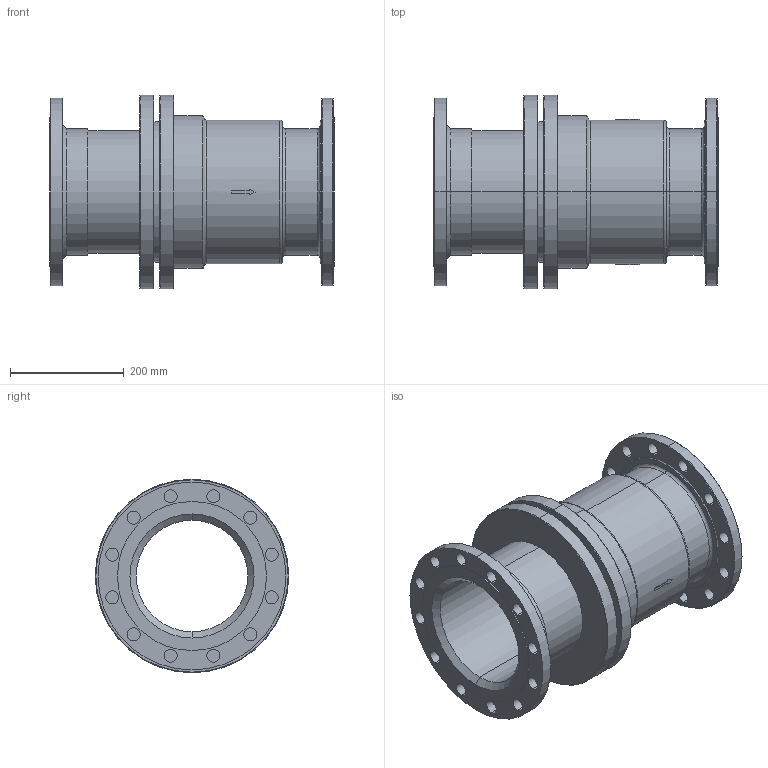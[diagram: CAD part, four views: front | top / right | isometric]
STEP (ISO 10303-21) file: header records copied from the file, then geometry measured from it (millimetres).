
FILE_DESCRIPTION( (''), '2;1');
FILE_NAME ('PC1027.9516.ES-10-100 200A_10393.stp','2025-07-30T13:14:48',(''),(''),'spGate 20.6.3 (****-****-****-****)','','');
FILE_SCHEMA (('AUTOMOTIVE_DESIGN'));
Length unit declared in the file: millimetre
Bounding box: 500 x 340 x 340 mm (x, y, z)
Volume: 10780377.8 mm3; surface area: 1106701.8 mm2
Topology: 1 solids, 1 shells, 139 faces, 340 edges, 218 vertices
Faces by surface type: cylinder 76, bspline 32, plane 31
Entity records: 7227 total; most frequent: CARTESIAN_POINT 1297, ORIENTED_EDGE 680, DIRECTION 638, COLOUR_RGB 480, PRESENTATION_STYLE_ASSIGNMENT 480, STYLED_ITEM 480, EDGE_CURVE 340, DRAUGHTING_PRE_DEFINED_CURVE_FONT 340
